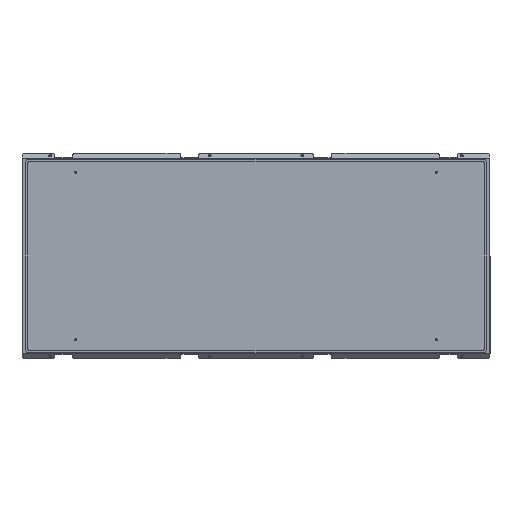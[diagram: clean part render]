
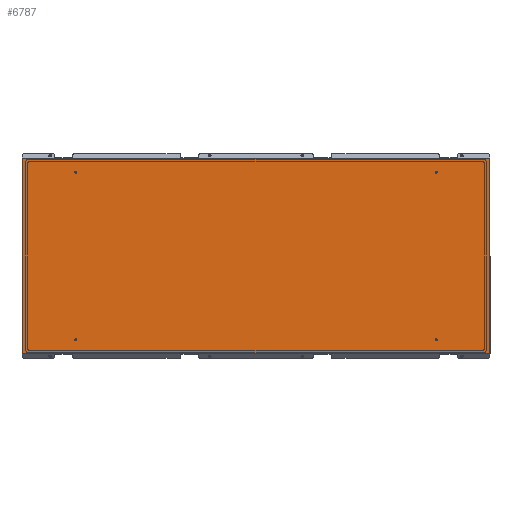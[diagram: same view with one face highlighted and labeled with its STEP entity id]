
A CAD part, left-side view. The second image highlights one B-rep face of the part: STEP entity #6787.
In plain terms, the highlighted planar face has unit normal (-1, 0, 0) as drawn and (0, 0, 1) by its records, which use the part's own axes.
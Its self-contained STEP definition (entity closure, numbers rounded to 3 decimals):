
#39 = EDGE_CURVE ( 'NONE', #2434, #2580, #6778, .T. ) ;
#53 = EDGE_CURVE ( 'NONE', #7838, #2434, #941, .T. ) ;
#243 = DIRECTION ( 'NONE',  ( -1., 0., 0. ) ) ;
#766 = DIRECTION ( 'NONE',  ( -1., 0., 0. ) ) ;
#805 = DIRECTION ( 'NONE',  ( 0., -1., 0. ) ) ;
#941 = LINE ( 'NONE', #6169, #2897 ) ;
#1107 = VECTOR ( 'NONE', #6331, 1000. ) ;
#1777 = VECTOR ( 'NONE', #805, 1000. ) ;
#2419 = CARTESIAN_POINT ( 'NONE',  ( -362.75, -870.5, 0. ) ) ;
#2434 = VERTEX_POINT ( 'NONE', #7537 ) ;
#2580 = VERTEX_POINT ( 'NONE', #6146 ) ;
#2897 = VECTOR ( 'NONE', #766, 1000. ) ;
#3208 = EDGE_CURVE ( 'NONE', #2580, #3751, #7030, .T. ) ;
#3412 = VECTOR ( 'NONE', #8378, 1000. ) ;
#3613 = CARTESIAN_POINT ( 'NONE',  ( -362.75, -870.5, 0. ) ) ;
#3640 = CARTESIAN_POINT ( 'NONE',  ( 362.75, -870.5, 0. ) ) ;
#3751 = VERTEX_POINT ( 'NONE', #6967 ) ;
#3860 = ORIENTED_EDGE ( 'NONE', *, *, #53, .T. ) ;
#4051 = ORIENTED_EDGE ( 'NONE', *, *, #7477, .T. ) ;
#5303 = CARTESIAN_POINT ( 'NONE',  ( 0., 0., 0. ) ) ;
#6146 = CARTESIAN_POINT ( 'NONE',  ( -362.75, -870.5, 0. ) ) ;
#6169 = CARTESIAN_POINT ( 'NONE',  ( -362.75, 870.5, 0. ) ) ;
#6331 = DIRECTION ( 'NONE',  ( 0., 1., 0. ) ) ;
#6624 = FACE_OUTER_BOUND ( 'NONE', #7355, .T. ) ;
#6773 = ORIENTED_EDGE ( 'NONE', *, *, #39, .T. ) ;
#6778 = LINE ( 'NONE', #3613, #1777 ) ;
#6787 = ADVANCED_FACE ( 'NONE', ( #6624 ), #8628, .F. ) ;
#6967 = CARTESIAN_POINT ( 'NONE',  ( 362.75, -870.5, 0. ) ) ;
#7030 = LINE ( 'NONE', #2419, #3412 ) ;
#7244 = ORIENTED_EDGE ( 'NONE', *, *, #3208, .T. ) ;
#7355 = EDGE_LOOP ( 'NONE', ( #4051, #3860, #6773, #7244 ) ) ;
#7477 = EDGE_CURVE ( 'NONE', #3751, #7838, #7539, .T. ) ;
#7537 = CARTESIAN_POINT ( 'NONE',  ( -362.75, 870.5, 0. ) ) ;
#7539 = LINE ( 'NONE', #3640, #1107 ) ;
#7832 = AXIS2_PLACEMENT_3D ( 'NONE', #5303, #7982, #243 ) ;
#7838 = VERTEX_POINT ( 'NONE', #8280 ) ;
#7982 = DIRECTION ( 'NONE',  ( 0., 0., -1. ) ) ;
#8280 = CARTESIAN_POINT ( 'NONE',  ( 362.75, 870.5, 0. ) ) ;
#8378 = DIRECTION ( 'NONE',  ( 1., 0., 0. ) ) ;
#8628 = PLANE ( 'NONE',  #7832 ) ;
